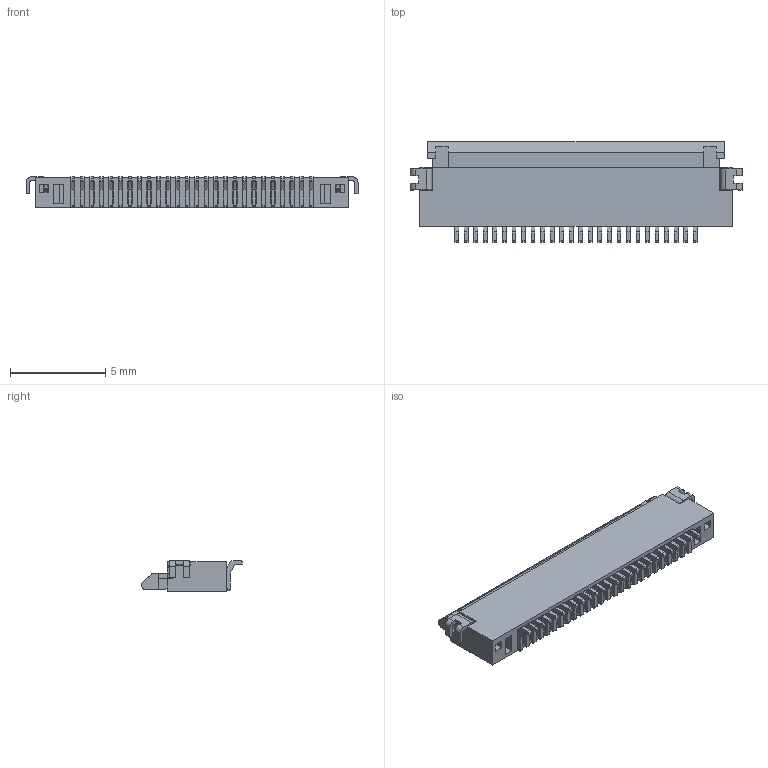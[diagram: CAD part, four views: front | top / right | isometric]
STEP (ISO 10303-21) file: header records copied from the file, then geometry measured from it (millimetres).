
FILE_DESCRIPTION((''),'2;1');
FILE_NAME('S-50506-026XX-XXX','2011-08-23T',('ouchwu'),(''),'PRO/ENGINEER BY PARAMETRIC TECHNOLOGY CORPORATION, 2007450','PRO/ENGINEER BY PARAMETRIC TECHNOLOGY CORPORATION, 2007450','');
FILE_SCHEMA(('CONFIG_CONTROL_DESIGN'));
Length unit declared in the file: millimetre
Products named in the file (1): S-50506-026XX-XXX
Bounding box: 17.4 x 5.29 x 1.6 mm (x, y, z)
Volume: 64.7 mm3; surface area: 555.2 mm2
Topology: 1 solids, 1 shells, 1636 faces, 5042 edges, 3302 vertices
Faces by surface type: plane 1052, cylinder 584
Entity records: 56535 total; most frequent: ORIENTED_EDGE 10084, CARTESIAN_POINT 10007, DIRECTION 9582, EDGE_CURVE 5042, VECTOR 3758, LINE 3758, VERTEX_POINT 3302, AXIS2_PLACEMENT_3D 2912
